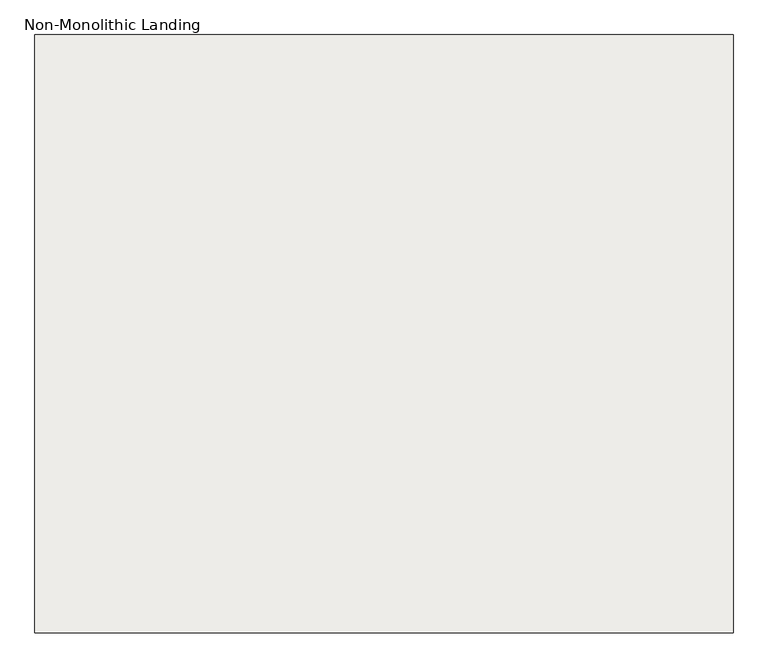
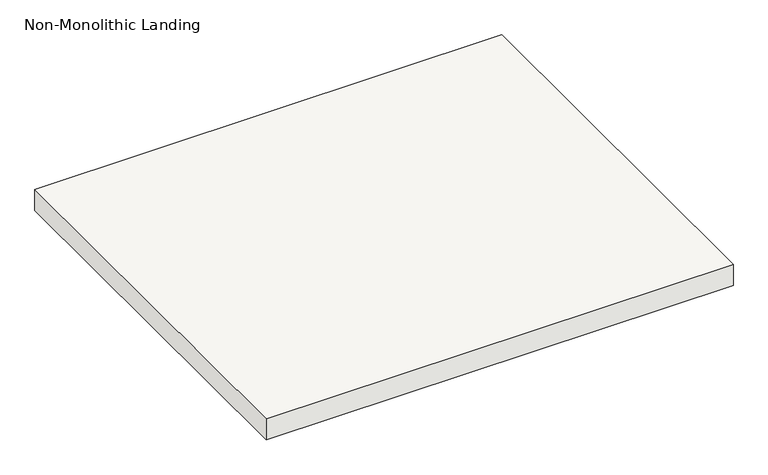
"""IFC4 building model written with IfcOpenShell, lengths in millimetres: slab geometry, Non-Monolithic Landing."""

from ifc_helpers import new_model, si_unit, frame, origin, place, context, project, spatial, polyline, outline, extrude, source, transform, mapped, element, save


def non_monolithic_landing_d6115c21(model_context):
    return source(origin(), model_context, "Body", "SweptSolid", [
        extrude(outline(polyline([(88330.9207174, -34537.0428514), (89397.7207174, -34537.0428514), (89397.7207174, -35451.4428514), (88330.9207174, -35451.4428514), (88330.9207174, -34537.0428514)])), frame((0.0, 0.0, 2195.0947368), z_axis=(0.0, 0.0, 1.0), x_axis=(1.0, 0.0, 0.0)), (0.0, 0.0, 1.0), 50.8),
    ])


if __name__ == "__main__":
    model = new_model("IFC4")
    model_context = context("Model", 3, world=origin())
    ifc_project = project(units=[si_unit("LENGTHUNIT", "METRE", prefix="MILLI")], contexts=[model_context])
    site = spatial("IfcSite", under=ifc_project)
    building = spatial("IfcBuilding", under=site)
    placement = place(None, origin())
    non_monolithic_landing_shape = non_monolithic_landing_d6115c21(model_context)
    element("IfcSlab", 1, ObjectType="Non-Monolithic Landing", at=placement, inside=building, context=model_context, shape_type="MappedRepresentation", body=[
        mapped(non_monolithic_landing_shape, transform((0.0, 0.0, 0.0), x_axis=(1.0, 0.0, 0.0), y_axis=(0.0, 1.0, 0.0), z_axis=(0.0, 0.0, 1.0))),
    ])
    save(model, "model.ifc")
